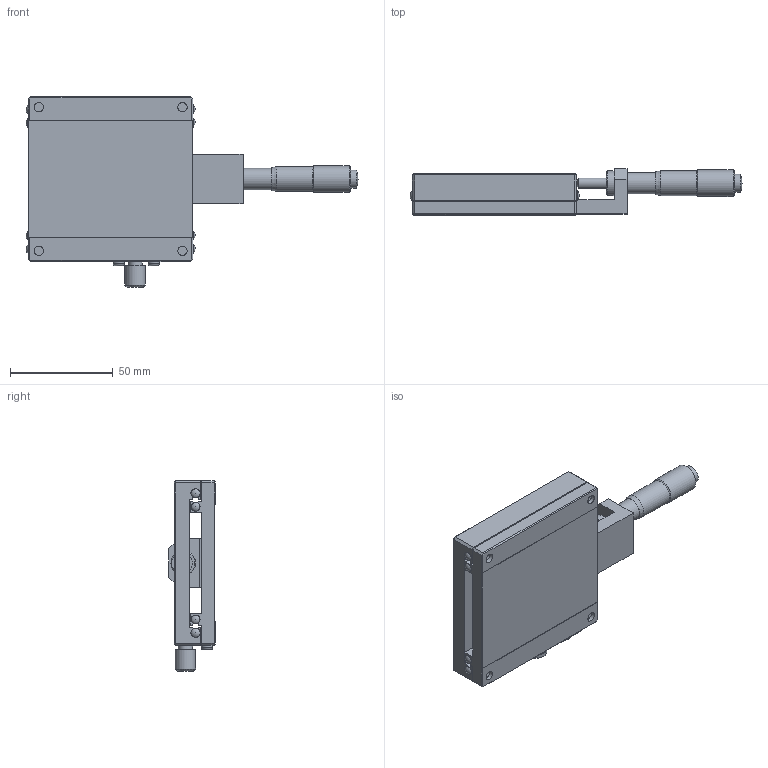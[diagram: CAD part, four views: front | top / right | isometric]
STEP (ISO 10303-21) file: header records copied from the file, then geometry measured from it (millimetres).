
FILE_DESCRIPTION(/* description */ ('STEP AP214'),/* implementation_level */ '2;1');
FILE_NAME(/* name */ 'LBX80-C',/* time_stamp */ '2024-09-23T03:23:44+02:00',/* author */ ('License CC BY-ND 4.0'),/* organization */ ('CADENAS'),/* preprocessor_version */ 'ST-DEVELOPER v19.3',/* originating_system */ 'PARTsolutions',/* authorisation */ ' ');
FILE_SCHEMA (('AUTOMOTIVE_DESIGN {1 0 10303 214 3 1 1}'));
Length unit declared in the file: millimetre
Products named in the file (4): LBX80-C; LB80C_XG; LB80C_SG; MT_WT_25_Q_13
Assembly tree (3 placements, depth 2):
  LBX80-C
    LB80C_XG
    LB80C_SG
    MT_WT_25_Q_13
Bounding box: 161.7 x 22.5 x 92.6 mm (x, y, z)
Volume: 111079.7 mm3; surface area: 44749.4 mm2
Topology: 3 solids, 3 shells, 199 faces, 449 edges, 280 vertices
Faces by surface type: plane 118, cylinder 58, sphere 9, torus 7, cone 7
Full cylindrical faces by diameter (mm): 3 x1, 3.242 x13, 4.3 x4, 4.5 x8, 5 x3, 5.5 x4, 6 x2, 7 x1, 8 x4, 8.734 x1, 9 x1, 10 x1, 10.4 x1, 10.6 x1, 12 x1, 12.102 x1, 13.002 x1
Entity records: 5065 total; most frequent: DIRECTION 912, CARTESIAN_POINT 814, ORIENTED_EDGE 708, AXIS2_PLACEMENT_3D 355, EDGE_CURVE 354, FACE_BOUND 305, EDGE_LOOP 304, VERTEX_POINT 257
